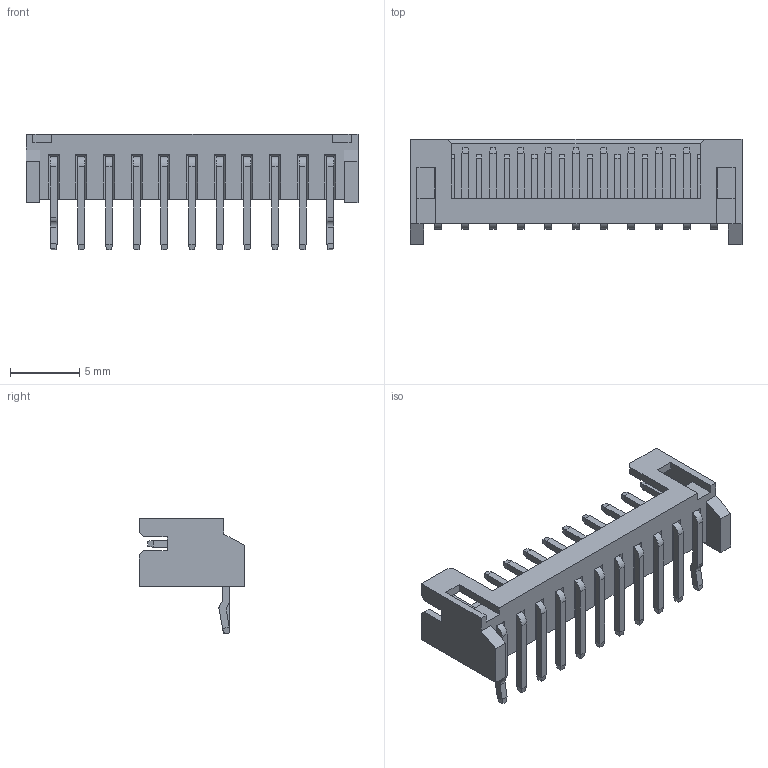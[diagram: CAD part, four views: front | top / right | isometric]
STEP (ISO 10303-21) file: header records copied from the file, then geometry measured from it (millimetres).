
FILE_DESCRIPTION((''),'2;1');
FILE_NAME('S-50387-008XX-XXX','2022-07-04T',('d35127'),(''),'CREO PARAMETRIC BY PTC INC, 2014500','CREO PARAMETRIC BY PTC INC, 2014500','');
FILE_SCHEMA(('AUTOMOTIVE_DESIGN { 1 0 10303 214 1 1 1 1 }'));
Length unit declared in the file: millimetre
Products named in the file (1): S-50387-008XX-XXX
Bounding box: 24 x 7.6 x 8.35 mm (x, y, z)
Volume: 289.4 mm3; surface area: 999.1 mm2
Topology: 1 solids, 1 shells, 424 faces, 1288 edges, 818 vertices
Faces by surface type: plane 394, cylinder 30
Entity records: 14382 total; most frequent: ORIENTED_EDGE 2532, CARTESIAN_POINT 2525, DIRECTION 2248, EDGE_CURVE 1266, VECTOR 1206, LINE 1206, VERTEX_POINT 796, AXIS2_PLACEMENT_3D 521
